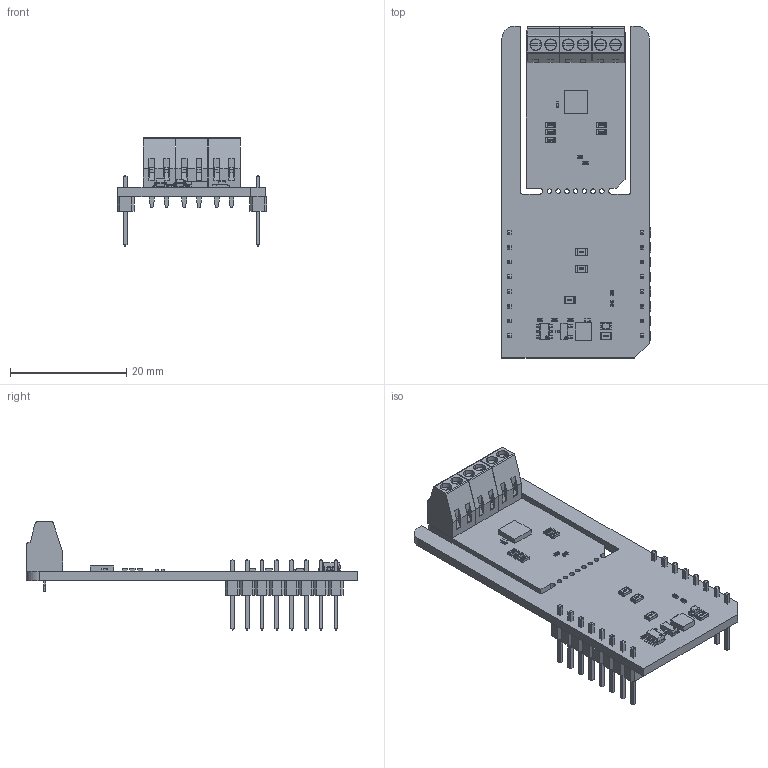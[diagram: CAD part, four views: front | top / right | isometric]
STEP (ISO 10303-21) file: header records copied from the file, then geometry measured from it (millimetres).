
FILE_DESCRIPTION(('Open CASCADE Model'),'2;1');
FILE_NAME('Open CASCADE Shape Model','2025-08-04T14:01:01',('Author'),( 'Open CASCADE'),'Open CASCADE STEP processor 6.8','Open CASCADE 6.8' ,'Unknown');
FILE_SCHEMA(('AUTOMOTIVE_DESIGN { 1 0 10303 214 1 1 1 1 }'));
Length unit declared in the file: millimetre
Products named in the file (47): PCB; Board; R8; User_Library-R_0402; R7; R6; R5; C2; User_Library-SMD_CAPACITOR0402; U3; 1581079080; Extruded; TB3; ScrewTerminal_2.54; TB2; TB1; JP8; User_Library-R_0805; JP7; JP6; JP5; User_Library-R_0603; JP4; JP2; JP3; R3; R1; LD1; led_0805_green; R2; C1; R4; Q1; SOT23-3; U1; 1761838424; U2; User_Library-SOT23-6-2; JP1; MBD1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
Assembly tree (64 placements, depth 7):
  PCB
    Board
    R8
      User_Library-R_0402
    R7
      User_Library-R_0402
    R6
      User_Library-R_0402
    R5
      User_Library-R_0402
    C2
      User_Library-SMD_CAPACITOR0402
    U3
      1581079080
        Extruded
    TB3
      ScrewTerminal_2.54
    TB2
      ScrewTerminal_2.54
    TB1
      ScrewTerminal_2.54
    JP8
      User_Library-R_0805
    JP7
      User_Library-R_0805
    JP6
      User_Library-R_0805
    JP5
      User_Library-R_0603
    JP4
      User_Library-R_0603
    JP2
      User_Library-R_0603
    JP3
      User_Library-R_0603
    R3
      User_Library-R_0402
    R1
      User_Library-R_0805
    LD1
      led_0805_green
    R2
      User_Library-R_0402
    C1
      User_Library-SMD_CAPACITOR0402
    R4
      User_Library-R_0402
    Q1
      SOT23-3
    U1
      1761838424
        Extruded
    U2
      User_Library-SOT23-6-2
    JP1
      User_Library-R_0603
    MBD1
      Header_1x8  x2
        PCB
          Free-Models
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Bounding box: 25.78 x 57.15 x 18.61 mm (x, y, z)
Volume: 3229.3 mm3; surface area: 6870.6 mm2
Topology: 101 solids, 101 shells, 2804 faces, 7128 edges, 4636 vertices
Faces by surface type: plane 1988, bspline 575, cylinder 217, sphere 24
Full cylindrical faces by diameter (mm): 0.8 x7
Entity records: 37032 total; most frequent: CARTESIAN_POINT 11766, ORIENTED_EDGE 4382, DIRECTION 3855, EDGE_CURVE 2191, LINE 1705, VECTOR 1705, VERTEX_POINT 1414, AXIS2_PLACEMENT_3D 1075
